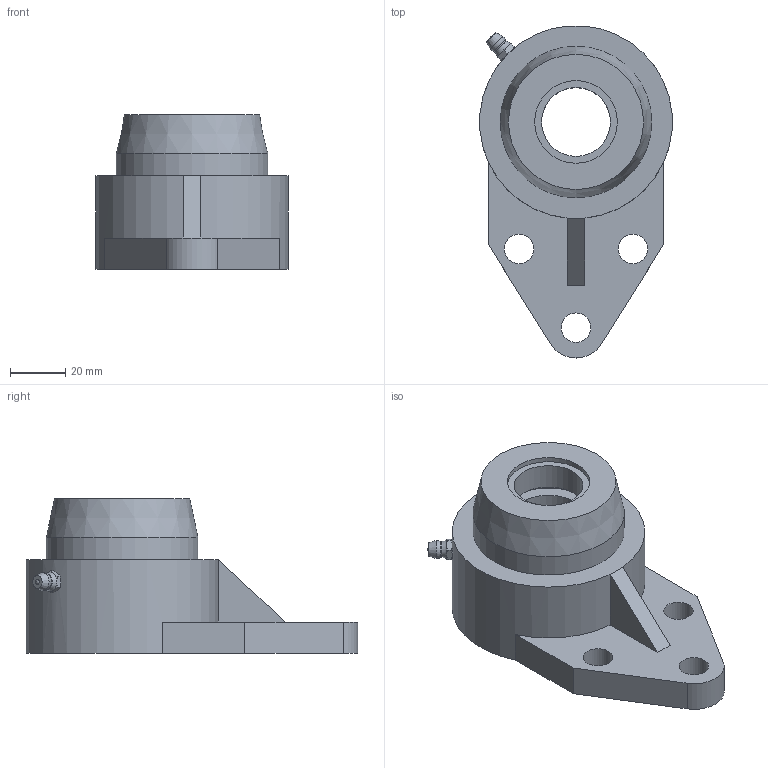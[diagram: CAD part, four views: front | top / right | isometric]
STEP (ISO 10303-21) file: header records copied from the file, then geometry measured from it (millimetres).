
FILE_DESCRIPTION(/* description */ (''),/* implementation_level */ '2;1');
FILE_NAME(/* name */ 'C:\Users\UGijyutu_200702\Desktop\77.プラスチックハウジング\MBFBL200V\MBFBL200VC\MBFBL205VC.stp',/* time_stamp */ '2023-05-08T16:17:22+09:00',/* author */ ('UGijyutu_200702'),/* organization */ (''),/* preprocessor_version */ 'ST-DEVELOPER v18',/* originating_system */ 'Autodesk Inventor 2020',/* authorisation */ '');
FILE_SCHEMA (('AUTOMOTIVE_DESIGN { 1 0 10303 214 3 1 1 }'));
Length unit declared in the file: millimetre
Products named in the file (5): MBFBL205VC; FBL205; MB5 V; 1/4-28UNF-2A; 205C
Assembly tree (4 placements, depth 2):
  MBFBL205VC
    FBL205
    MB5 V
    1/4-28UNF-2A
    205C
Bounding box: 69.75 x 120.47 x 56.2 mm (x, y, z)
Volume: 125541.5 mm3; surface area: 46602.4 mm2
Topology: 4 solids, 4 shells, 96 faces, 234 edges, 161 vertices
Faces by surface type: plane 49, cylinder 24, cone 17, sphere 4, torus 2
Full cylindrical faces by diameter (mm): 3.2 x1, 4.978 x1, 5 x2, 6.35 x1, 10.7 x3, 25 x2, 30 x1, 34 x1, 40.6 x1, 51.4 x1, 54.8 x2, 55 x1, 62 x1
Entity records: 3325 total; most frequent: CARTESIAN_POINT 754, DIRECTION 511, ORIENTED_EDGE 466, EDGE_CURVE 233, AXIS2_PLACEMENT_3D 211, VERTEX_POINT 161, EDGE_LOOP 126, CIRCLE 106
